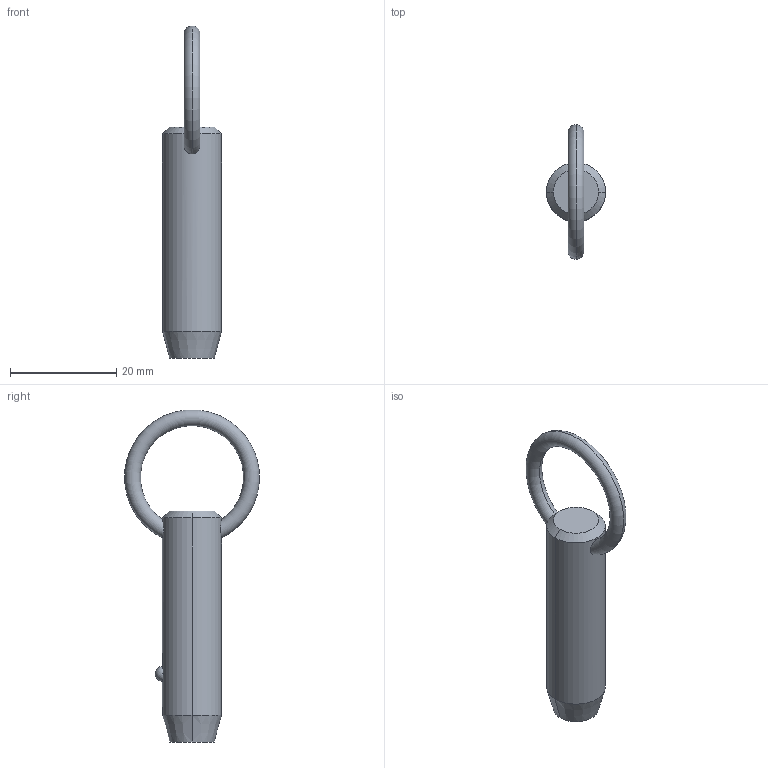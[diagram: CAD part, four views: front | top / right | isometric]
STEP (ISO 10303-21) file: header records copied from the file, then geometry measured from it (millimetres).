
FILE_DESCRIPTION (( 'STEP AP203' ), '1' );
FILE_NAME ('P1250.050-090.step', '2019-07-29T20:28:39', ( '' ), ( '' ), 'SwSTEP 2.0', 'SolidWorks 2017', '' );
FILE_SCHEMA (( 'CONFIG_CONTROL_DESIGN' ));
Length unit declared in the file: millimetre
Products named in the file (1): P1250.050-090
Bounding box: 11.1 x 25.32 x 62.45 mm (x, y, z)
Volume: 4492.2 mm3; surface area: 2169.6 mm2
Topology: 1 solids, 1 shells, 12 faces, 28 edges, 17 vertices
Faces by surface type: cone 4, torus 2, sphere 2, cylinder 2, plane 2
Entity records: 523 total; most frequent: CARTESIAN_POINT 190, DIRECTION 56, ORIENTED_EDGE 48, AXIS2_PLACEMENT_3D 25, EDGE_CURVE 24, VERTEX_POINT 15, EDGE_LOOP 15, FACE_OUTER_BOUND 12
